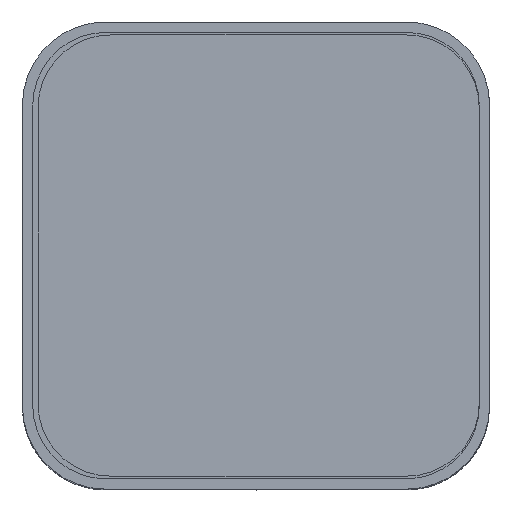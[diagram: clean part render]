
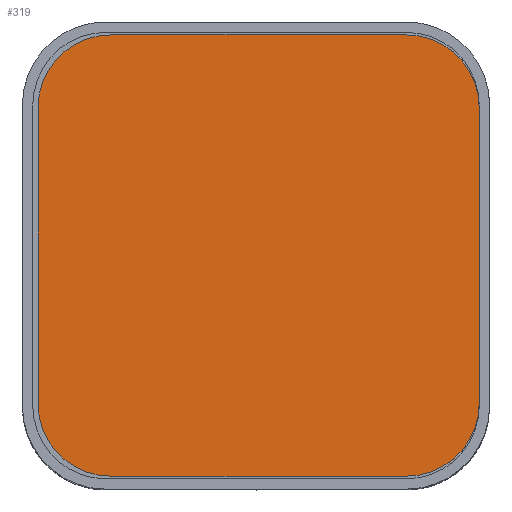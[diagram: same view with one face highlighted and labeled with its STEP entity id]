
A CAD part, top view. The second image highlights one B-rep face of the part: STEP entity #319.
In plain terms, the highlighted planar face has unit normal (0, 0, 1).
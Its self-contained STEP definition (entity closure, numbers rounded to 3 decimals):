
#54 = VERTEX_POINT('',#55);
#55 = CARTESIAN_POINT('',(-21.25,14.25,0.8));
#61 = EDGE_CURVE('',#54,#62,#64,.T.);
#62 = VERTEX_POINT('',#63);
#63 = CARTESIAN_POINT('',(-21.25,-14.25,0.8));
#64 = LINE('',#65,#66);
#65 = CARTESIAN_POINT('',(-21.25,14.25,0.8));
#66 = VECTOR('',#67,1.);
#67 = DIRECTION('',(0.,-1.,0.));
#92 = EDGE_CURVE('',#62,#93,#95,.T.);
#93 = VERTEX_POINT('',#94);
#94 = CARTESIAN_POINT('',(-14.25,-21.25,0.8));
#95 = CIRCLE('',#96,7.);
#96 = AXIS2_PLACEMENT_3D('',#97,#98,#99);
#97 = CARTESIAN_POINT('',(-14.25,-14.25,0.8));
#98 = DIRECTION('',(0.,0.,1.));
#99 = DIRECTION('',(1.,0.,0.));
#125 = EDGE_CURVE('',#93,#126,#128,.T.);
#126 = VERTEX_POINT('',#127);
#127 = CARTESIAN_POINT('',(14.25,-21.25,0.8));
#128 = LINE('',#129,#130);
#129 = CARTESIAN_POINT('',(-14.25,-21.25,0.8));
#130 = VECTOR('',#131,1.);
#131 = DIRECTION('',(1.,0.,0.));
#156 = EDGE_CURVE('',#126,#157,#159,.T.);
#157 = VERTEX_POINT('',#158);
#158 = CARTESIAN_POINT('',(21.25,-14.25,0.8));
#159 = CIRCLE('',#160,7.);
#160 = AXIS2_PLACEMENT_3D('',#161,#162,#163);
#161 = CARTESIAN_POINT('',(14.25,-14.25,0.8));
#162 = DIRECTION('',(0.,0.,1.));
#163 = DIRECTION('',(1.,0.,0.));
#189 = EDGE_CURVE('',#157,#190,#192,.T.);
#190 = VERTEX_POINT('',#191);
#191 = CARTESIAN_POINT('',(21.25,14.25,0.8));
#192 = LINE('',#193,#194);
#193 = CARTESIAN_POINT('',(21.25,-14.25,0.8));
#194 = VECTOR('',#195,1.);
#195 = DIRECTION('',(0.,1.,0.));
#220 = EDGE_CURVE('',#190,#221,#223,.T.);
#221 = VERTEX_POINT('',#222);
#222 = CARTESIAN_POINT('',(14.25,21.25,0.8));
#223 = CIRCLE('',#224,7.);
#224 = AXIS2_PLACEMENT_3D('',#225,#226,#227);
#225 = CARTESIAN_POINT('',(14.25,14.25,0.8));
#226 = DIRECTION('',(0.,0.,1.));
#227 = DIRECTION('',(1.,0.,0.));
#253 = EDGE_CURVE('',#221,#254,#256,.T.);
#254 = VERTEX_POINT('',#255);
#255 = CARTESIAN_POINT('',(-14.25,21.25,0.8));
#256 = LINE('',#257,#258);
#257 = CARTESIAN_POINT('',(14.25,21.25,0.8));
#258 = VECTOR('',#259,1.);
#259 = DIRECTION('',(-1.,0.,0.));
#284 = EDGE_CURVE('',#254,#54,#285,.T.);
#285 = CIRCLE('',#286,7.);
#286 = AXIS2_PLACEMENT_3D('',#287,#288,#289);
#287 = CARTESIAN_POINT('',(-14.25,14.25,0.8));
#288 = DIRECTION('',(0.,0.,1.));
#289 = DIRECTION('',(1.,0.,0.));
#319 = ADVANCED_FACE('',(#320),#330,.T.);
#320 = FACE_BOUND('',#321,.T.);
#321 = EDGE_LOOP('',(#322,#323,#324,#325,#326,#327,#328,#329));
#322 = ORIENTED_EDGE('',*,*,#61,.T.);
#323 = ORIENTED_EDGE('',*,*,#92,.T.);
#324 = ORIENTED_EDGE('',*,*,#125,.T.);
#325 = ORIENTED_EDGE('',*,*,#156,.T.);
#326 = ORIENTED_EDGE('',*,*,#189,.T.);
#327 = ORIENTED_EDGE('',*,*,#220,.T.);
#328 = ORIENTED_EDGE('',*,*,#253,.T.);
#329 = ORIENTED_EDGE('',*,*,#284,.T.);
#330 = PLANE('',#331);
#331 = AXIS2_PLACEMENT_3D('',#332,#333,#334);
#332 = CARTESIAN_POINT('',(0.,0.,0.8));
#333 = DIRECTION('',(0.,0.,1.));
#334 = DIRECTION('',(1.,0.,0.));
